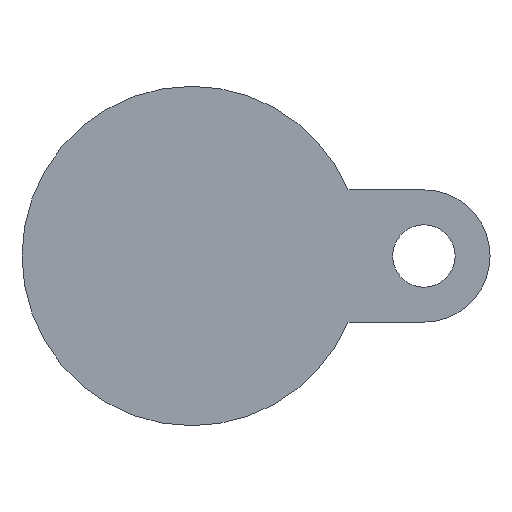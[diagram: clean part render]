
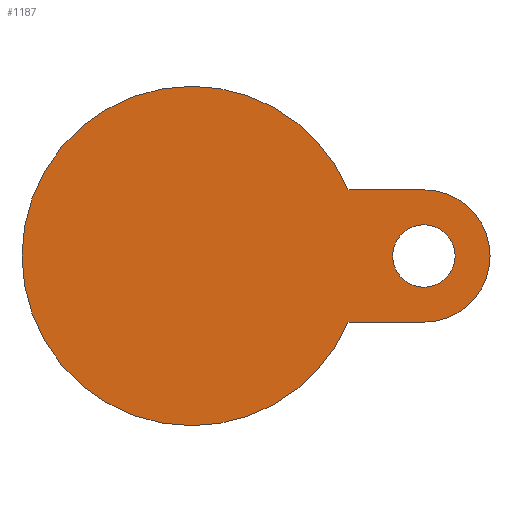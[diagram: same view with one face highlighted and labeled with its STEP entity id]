
A CAD part, front view. The second image highlights one B-rep face of the part: STEP entity #1187.
In plain terms, the highlighted planar face has unit normal (0, -1, 0).
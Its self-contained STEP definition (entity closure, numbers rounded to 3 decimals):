
#29 = ORIENTED_EDGE ( 'NONE', *, *, #565, .F. ) ;
#46 = PLANE ( 'NONE',  #4391 ) ;
#89 = AXIS2_PLACEMENT_3D ( 'NONE', #3938, #1412, #1466 ) ;
#331 = CARTESIAN_POINT ( 'NONE',  ( 0., -22., -47.5 ) ) ;
#353 = VERTEX_POINT ( 'NONE', #1591 ) ;
#365 = CIRCLE ( 'NONE', #4788, 47.5 ) ;
#532 = CIRCLE ( 'NONE', #5211, 18.5 ) ;
#554 = DIRECTION ( 'NONE',  ( 0., 0., 1. ) ) ;
#565 = EDGE_CURVE ( 'NONE', #4283, #353, #2547, .T. ) ;
#709 = CIRCLE ( 'NONE', #89, 8.75 ) ;
#869 = VERTEX_POINT ( 'NONE', #2871 ) ;
#916 = VERTEX_POINT ( 'NONE', #331 ) ;
#994 = CARTESIAN_POINT ( 'NONE',  ( 65., -22., -18.5 ) ) ;
#1099 = EDGE_CURVE ( 'NONE', #869, #1302, #3166, .T. ) ;
#1141 = EDGE_CURVE ( 'NONE', #3171, #3569, #4758, .T. ) ;
#1178 = CARTESIAN_POINT ( 'NONE',  ( 65., -22., 0. ) ) ;
#1187 = ADVANCED_FACE ( 'NONE', ( #4318, #4347 ), #46, .T. ) ;
#1209 = AXIS2_PLACEMENT_3D ( 'NONE', #3109, #3494, #554 ) ;
#1281 = ORIENTED_EDGE ( 'NONE', *, *, #2351, .F. ) ;
#1302 = VERTEX_POINT ( 'NONE', #1523 ) ;
#1317 = CARTESIAN_POINT ( 'NONE',  ( 65., -22., -8.75 ) ) ;
#1406 = LINE ( 'NONE', #1912, #2050 ) ;
#1412 = DIRECTION ( 'NONE',  ( 0., -1., 0. ) ) ;
#1466 = DIRECTION ( 'NONE',  ( 0., 0., -1. ) ) ;
#1523 = CARTESIAN_POINT ( 'NONE',  ( 43.749, -22., 18.5 ) ) ;
#1542 = DIRECTION ( 'NONE',  ( 0., -1., 0. ) ) ;
#1591 = CARTESIAN_POINT ( 'NONE',  ( 65., -22., 8.75 ) ) ;
#1836 = DIRECTION ( 'NONE',  ( 0., 0., -1. ) ) ;
#1862 = DIRECTION ( 'NONE',  ( 0., -1., 0. ) ) ;
#1912 = CARTESIAN_POINT ( 'NONE',  ( 28.666, -22., 18.5 ) ) ;
#1926 = AXIS2_PLACEMENT_3D ( 'NONE', #5241, #4749, #4365 ) ;
#1979 = ORIENTED_EDGE ( 'NONE', *, *, #1141, .T. ) ;
#2050 = VECTOR ( 'NONE', #2329, 1000. ) ;
#2060 = EDGE_LOOP ( 'NONE', ( #29, #5183 ) ) ;
#2258 = EDGE_CURVE ( 'NONE', #353, #4283, #709, .T. ) ;
#2329 = DIRECTION ( 'NONE',  ( -1., 0., 0. ) ) ;
#2351 = EDGE_CURVE ( 'NONE', #916, #869, #4772, .T. ) ;
#2547 = CIRCLE ( 'NONE', #1926, 8.75 ) ;
#2676 = CARTESIAN_POINT ( 'NONE',  ( 0., -22., 0. ) ) ;
#2824 = DIRECTION ( 'NONE',  ( 0., 1., 0. ) ) ;
#2829 = VERTEX_POINT ( 'NONE', #3791 ) ;
#2871 = CARTESIAN_POINT ( 'NONE',  ( 0., -22., 47.5 ) ) ;
#2974 = EDGE_CURVE ( 'NONE', #3569, #2829, #532, .T. ) ;
#3028 = DIRECTION ( 'NONE',  ( 1., 0., 0. ) ) ;
#3109 = CARTESIAN_POINT ( 'NONE',  ( 0., -22., 0. ) ) ;
#3166 = CIRCLE ( 'NONE', #1209, 47.5 ) ;
#3171 = VERTEX_POINT ( 'NONE', #5068 ) ;
#3335 = VECTOR ( 'NONE', #3028, 1000. ) ;
#3388 = ORIENTED_EDGE ( 'NONE', *, *, #4448, .T. ) ;
#3494 = DIRECTION ( 'NONE',  ( 0., 1., 0. ) ) ;
#3569 = VERTEX_POINT ( 'NONE', #4839 ) ;
#3625 = DIRECTION ( 'NONE',  ( 0., 0., -1. ) ) ;
#3791 = CARTESIAN_POINT ( 'NONE',  ( 65., -22., 18.5 ) ) ;
#3812 = AXIS2_PLACEMENT_3D ( 'NONE', #5320, #2824, #4495 ) ;
#3938 = CARTESIAN_POINT ( 'NONE',  ( 65., -22., 0. ) ) ;
#3940 = CARTESIAN_POINT ( 'NONE',  ( 0., -22., 0. ) ) ;
#4169 = EDGE_LOOP ( 'NONE', ( #3388, #5069, #1281, #4847, #1979, #4432 ) ) ;
#4283 = VERTEX_POINT ( 'NONE', #1317 ) ;
#4318 = FACE_OUTER_BOUND ( 'NONE', #4169, .T. ) ;
#4319 = DIRECTION ( 'NONE',  ( 0., 1., 0. ) ) ;
#4347 = FACE_BOUND ( 'NONE', #2060, .T. ) ;
#4349 = DIRECTION ( 'NONE',  ( 0., 0., 1. ) ) ;
#4365 = DIRECTION ( 'NONE',  ( 0., 0., -1. ) ) ;
#4391 = AXIS2_PLACEMENT_3D ( 'NONE', #3940, #1862, #1836 ) ;
#4432 = ORIENTED_EDGE ( 'NONE', *, *, #2974, .T. ) ;
#4448 = EDGE_CURVE ( 'NONE', #2829, #1302, #1406, .T. ) ;
#4495 = DIRECTION ( 'NONE',  ( 0., 0., 1. ) ) ;
#4749 = DIRECTION ( 'NONE',  ( 0., -1., 0. ) ) ;
#4758 = LINE ( 'NONE', #994, #3335 ) ;
#4772 = CIRCLE ( 'NONE', #3812, 47.5 ) ;
#4788 = AXIS2_PLACEMENT_3D ( 'NONE', #2676, #4319, #4349 ) ;
#4839 = CARTESIAN_POINT ( 'NONE',  ( 65., -22., -18.5 ) ) ;
#4847 = ORIENTED_EDGE ( 'NONE', *, *, #5294, .F. ) ;
#5068 = CARTESIAN_POINT ( 'NONE',  ( 43.749, -22., -18.5 ) ) ;
#5069 = ORIENTED_EDGE ( 'NONE', *, *, #1099, .F. ) ;
#5183 = ORIENTED_EDGE ( 'NONE', *, *, #2258, .F. ) ;
#5211 = AXIS2_PLACEMENT_3D ( 'NONE', #1178, #1542, #3625 ) ;
#5241 = CARTESIAN_POINT ( 'NONE',  ( 65., -22., 0. ) ) ;
#5294 = EDGE_CURVE ( 'NONE', #3171, #916, #365, .T. ) ;
#5320 = CARTESIAN_POINT ( 'NONE',  ( 0., -22., 0. ) ) ;
